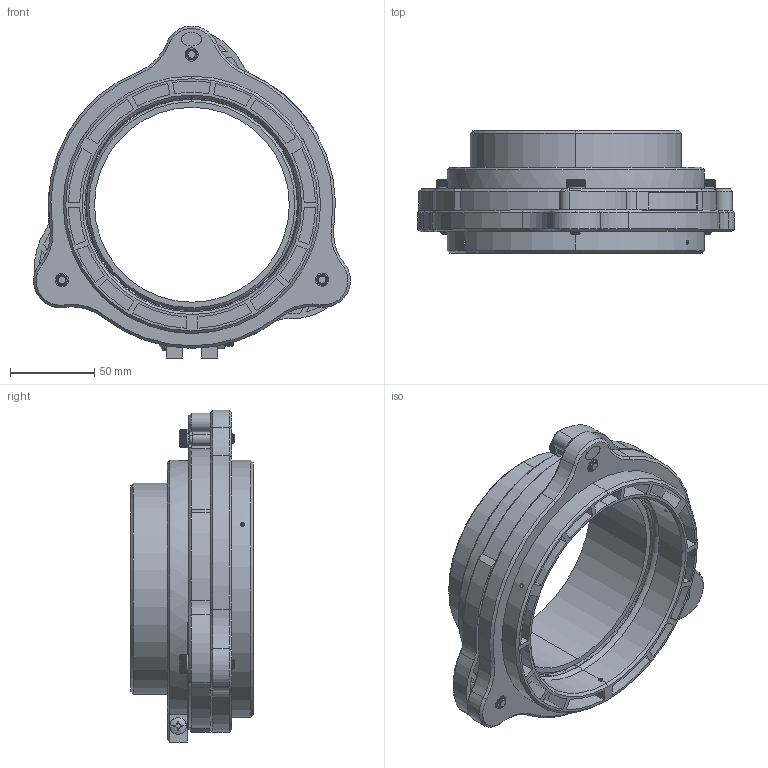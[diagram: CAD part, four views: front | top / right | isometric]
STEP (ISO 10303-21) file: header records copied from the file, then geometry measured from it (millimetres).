
FILE_DESCRIPTION (( 'STEP AP214' ), '1' );
FILE_NAME ('80001563.STEP', '2023-11-09T15:44:45', ( '' ), ( '' ), 'SwSTEP 2.0', 'SolidWorks 2022', '' );
FILE_SCHEMA (( 'AUTOMOTIVE_DESIGN' ));
Length unit declared in the file: millimetre
Products named in the file (16): 600524; 1802127_1802127; 1001309; 1802123_1802123; 190476; 1802185_1802185; 600525; 7050527; 1802181; 7050532; 1802128_1802128; 600526; 1001312_Quicklox Dust Bag Assembly; 400300; 7050528; 80001563
Assembly tree (23 placements, depth 4):
  80001563
    7050528
      600525
      1802127_1802127
      1802128_1802128
      600526
      190476  x3
    7050527
      7050532
        600524
        1802181  x3
      1802123_1802123  x3
      400300
      1802185_1802185  x3
    1001309
    1001312_Quicklox Dust Bag Assembly
Bounding box: 187.63 x 72.4 x 196.61 mm (x, y, z)
Volume: 374349.9 mm3; surface area: 209337.9 mm2
Topology: 20 solids, 20 shells, 2332 faces, 6076 edges, 3864 vertices
Faces by surface type: plane 931, cone 667, cylinder 661, bspline 40, torus 31, sphere 2
Entity records: 58228 total; most frequent: CARTESIAN_POINT 23820, ORIENTED_EDGE 7348, DIRECTION 6737, EDGE_CURVE 3674, AXIS2_PLACEMENT_3D 2473, VERTEX_POINT 2362, VECTOR 1791, LINE 1791
